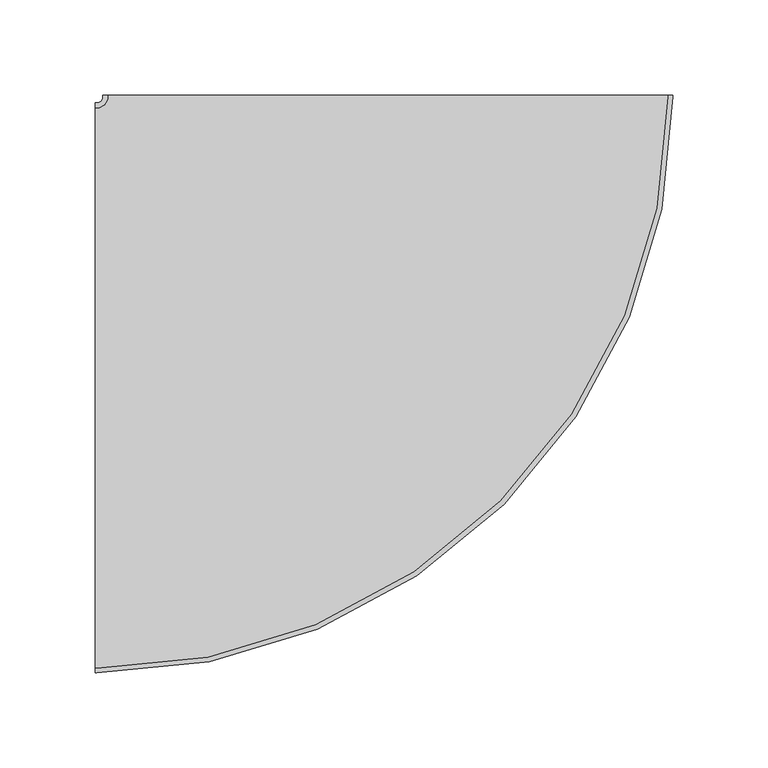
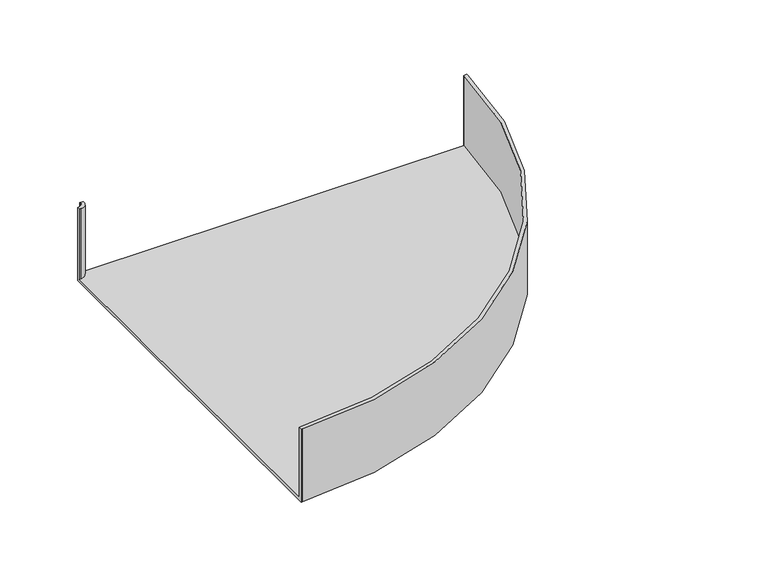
"""IFC4 building model written with IfcOpenShell, lengths in millimetres: cable carrier fitting geometry, BAKS_Mesh horizontal bend : KKSZ_H60."""

from ifc_helpers import new_model, si_unit, frame, origin, place, context, project, spatial, polyline, circle_curve, source, transform, mapped, element, save
from ifc_brep_helpers import plane_surface, cylinder_surface, revolved_surface, advanced_brep


def cable_carrier_fitting_ce1f183e(model_context):
    return source(origin(), model_context, "Body", "AdvancedBrep", [
        advanced_brep(
        [(-154.175, -150.0, -30.0), (-154.175, -150.0, 30.0), (-154.175, -147.46, 30.0), (-154.175, -147.46, -27.46), (-154.175, 147.46, -27.46), (-154.175, 147.46, 30.0), (-154.175, 150.0, 30.0), (-154.175, 150.0, -30.0), (150.0, 154.175, -30.0), (-150.0, 154.175, -30.0), (-150.0, 154.175, 30.0), (-147.46, 154.175, 30.0), (-147.46, 154.175, -27.46), (147.46, 154.175, -27.46), (147.46, 154.175, 30.0), (150.0, 154.175, 30.0), (-153.175, -150.0, -30.0), (-153.175, -150.0, 30.0), (150.0, 153.175, 30.0), (147.46, 153.175, 30.0), (-153.175, -147.46, 30.0), (-153.175, -147.46, -27.46), (147.46, 153.175, -27.46), (-147.46, 153.175, -27.46), (-153.175, 147.46, -27.46), (-153.175, 147.46, 30.0), (-147.46, 153.175, 30.0), (-150.0, 153.175, 30.0), (-153.175, 150.0, 30.0), (-153.175, 150.0, -30.0), (-150.0, 153.175, -30.0), (150.0, 153.175, -30.0)],
        [
            (0, 1),
            (1, 2),
            (2, 3),
            (3, 4),
            (4, 5),
            (5, 6),
            (6, 7),
            (7, 0),
            (8, 9),
            (9, 10),
            (10, 11),
            (11, 12),
            (12, 13),
            (13, 14),
            (14, 15),
            (15, 8),
            (0, 16),
            (16, 17),
            (17, 1),
            (17, 18, circle_curve(frame((-153.175, 153.175, 30.0), z_axis=(0.0, 0.0, 1.0), x_axis=(0.0, -1.0, 0.0)), 303.175)),
            (18, 15),
            (14, 19),
            (19, 20, circle_curve(frame((-153.175, 153.175, 30.0), z_axis=(0.0, 0.0, -1.0), x_axis=(0.0, -1.0, 0.0)), 300.635)),
            (20, 2),
            (20, 21),
            (21, 3),
            (21, 22, circle_curve(frame((-153.175, 153.175, -27.46), z_axis=(0.0, 0.0, 1.0), x_axis=(0.0, -1.0, 0.0)), 300.635)),
            (22, 13),
            (12, 23),
            (23, 24, circle_curve(frame((-153.175, 153.175, -27.46), z_axis=(0.0, 0.0, -1.0), x_axis=(0.0, -1.0, 0.0)), 5.715)),
            (24, 4),
            (24, 25),
            (25, 5),
            (25, 26, circle_curve(frame((-153.175, 153.175, 30.0), z_axis=(0.0, 0.0, 1.0), x_axis=(0.0, -1.0, 0.0)), 5.715)),
            (26, 11),
            (10, 27),
            (27, 28, circle_curve(frame((-153.175, 153.175, 30.0), z_axis=(0.0, 0.0, -1.0), x_axis=(0.0, -1.0, 0.0)), 3.175)),
            (28, 6),
            (28, 29),
            (29, 7),
            (29, 30, circle_curve(frame((-153.175, 153.175, -30.0), z_axis=(0.0, 0.0, 1.0), x_axis=(0.0, -1.0, 0.0)), 3.175)),
            (30, 9),
            (8, 31),
            (31, 16, circle_curve(frame((-153.175, 153.175, -30.0), z_axis=(0.0, 0.0, -1.0), x_axis=(0.0, -1.0, 0.0)), 303.175)),
            (31, 18),
            (19, 22),
            (23, 26),
            (27, 30),
        ],
        [
            plane_surface(frame((-154.175, 0.0, 0.0), z_axis=(-1.0, -4.906741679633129e-12, 0.0), x_axis=(0.0, 0.0, 1.0))),
            plane_surface(frame((0.0, 154.175, 0.0), z_axis=(0.0, 1.0, 0.0), x_axis=(0.0, 0.0, 1.0))),
            plane_surface(frame((-154.175, -150.0, -30.0), z_axis=(4.906741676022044e-12, -1.0, 0.0), x_axis=(1.0, 4.906741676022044e-12, 0.0))),
            plane_surface(frame((-154.175, -150.0, 30.0), z_axis=(0.0, 0.0, 1.0), x_axis=(1.0, 4.906741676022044e-12, 0.0))),
            plane_surface(frame((-154.175, -147.46, 30.0), z_axis=(-4.889821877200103e-12, 1.0, 0.0), x_axis=(1.0, 4.889821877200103e-12, 0.0))),
            plane_surface(frame((-154.175, -147.46, -27.46), z_axis=(0.0, 0.0, 1.0), x_axis=(1.0, 4.906741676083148e-12, 0.0))),
            plane_surface(frame((-154.175, 147.46, -27.46), z_axis=(4.906741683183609e-12, -1.0, 0.0), x_axis=(1.0, 4.906741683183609e-12, 0.0))),
            plane_surface(frame((-154.175, 147.46, 30.0), z_axis=(0.0, 0.0, 1.0), x_axis=(1.0, 4.906741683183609e-12, 0.0))),
            plane_surface(frame((-154.175, 150.0, 30.0), z_axis=(-4.906741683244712e-12, 1.0, 0.0), x_axis=(1.0, 4.906741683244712e-12, 0.0))),
            plane_surface(frame((-154.175, 150.0, -30.0), z_axis=(0.0, 0.0, -1.0), x_axis=(1.0, 4.906741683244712e-12, 0.0))),
            cylinder_surface(frame((-153.175, 153.175, 0.0), z_axis=(0.0, 0.0, 1.0), x_axis=(0.0, -1.0, 0.0)), 303.175),
            revolved_surface(polyline([(-153.175, -147.45999999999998, 30.0), (-153.175, -147.45999999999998, -27.46)]), (-153.175, 153.175, 0.0), (0.0, 0.0, 1.0)),
            cylinder_surface(frame((-153.175, 153.175, 0.0), z_axis=(0.0, 0.0, 1.0), x_axis=(0.0, -1.0, 0.0)), 5.715),
            revolved_surface(polyline([(-153.175, 150.0, 30.0), (-153.175, 150.0, -30.0)]), (-153.175, 153.175, 0.0), (0.0, 0.0, 1.0)),
            plane_surface(frame((150.0, 153.175, -30.0), z_axis=(1.0, 0.0, 0.0), x_axis=(0.0, 1.0, 0.0))),
            plane_surface(frame((147.46, 153.175, 30.0), z_axis=(-1.0, 0.0, 0.0), x_axis=(0.0, 1.0, 0.0))),
            plane_surface(frame((-147.46, 153.175, -27.46), z_axis=(1.0, 0.0, 0.0), x_axis=(0.0, 1.0, 0.0))),
            plane_surface(frame((-150.0, 153.175, 30.0), z_axis=(-1.0, 0.0, 0.0), x_axis=(0.0, 1.0, 0.0))),
        ],
        [
            (0, [[1, 2, 3, 4, 5, 6, 7, 8]]),
            (1, [[9, 10, 11, 12, 13, 14, 15, 16]]),
            (2, [[-1, 17, 18, 19]]),
            (3, [[-2, -19, 20, 21, -15, 22, 23, 24]]),
            (4, [[-3, -24, 25, 26]]),
            (5, [[-4, -26, 27, 28, -13, 29, 30, 31]]),
            (6, [[-5, -31, 32, 33]]),
            (7, [[-6, -33, 34, 35, -11, 36, 37, 38]]),
            (8, [[-7, -38, 39, 40]]),
            (9, [[-8, -40, 41, 42, -9, 43, 44, -17]]),
            (10, [[-20, -18, -44, 45]]),
            (11, [[-27, -25, -23, 46]]),
            (12, [[-34, -32, -30, 47]]),
            (13, [[-41, -39, -37, 48]]),
            (14, [[-45, -43, -16, -21]]),
            (15, [[-46, -22, -14, -28]]),
            (16, [[-47, -29, -12, -35]]),
            (17, [[-48, -36, -10, -42]]),
        ],
    ),
    ])


if __name__ == "__main__":
    model = new_model("IFC4")
    model_context = context("Model", 3, world=origin())
    ifc_project = project(units=[si_unit("LENGTHUNIT", "METRE", prefix="MILLI")], contexts=[model_context])
    site = spatial("IfcSite", under=ifc_project)
    building = spatial("IfcBuilding", under=site)
    placement = place(None, origin())
    cable_carrier_fitting_shape = cable_carrier_fitting_ce1f183e(model_context)
    element("IfcCableCarrierFitting", 1, ObjectType="BAKS_Mesh horizontal bend : KKSZ_H60", at=placement, inside=building, context=model_context, shape_type="MappedRepresentation", body=[
        mapped(cable_carrier_fitting_shape, transform((0.0, 0.0, 0.0), x_axis=(1.0, 0.0, 0.0), y_axis=(0.0, 1.0, 0.0), z_axis=(0.0, 0.0, 1.0))),
    ])
    save(model, "model.ifc")
